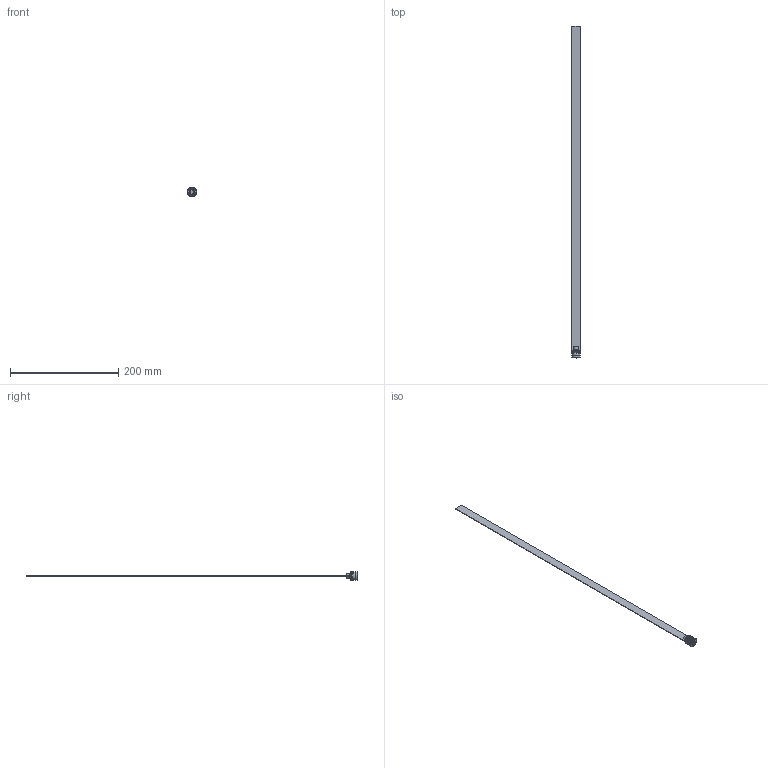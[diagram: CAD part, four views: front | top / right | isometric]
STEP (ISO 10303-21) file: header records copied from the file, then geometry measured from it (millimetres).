
FILE_DESCRIPTION (( 'STEP AP203' ), '1' );
FILE_NAME ('RL-16Fx600.STEP', '2015-12-02T14:32:27', ( 'Balzi' ), ( '' ), 'SwSTEP 2.0', 'SolidWorks 2015', '' );
FILE_SCHEMA (( 'CONFIG_CONTROL_DESIGN' ));
Length unit declared in the file: millimetre
Products named in the file (1): RL-16Fx600
Bounding box: 17.5 x 614 x 17.5 mm (x, y, z)
Volume: 12408.3 mm3; surface area: 21937.6 mm2
Topology: 1 solids, 1 shells, 75 faces, 177 edges, 109 vertices
Faces by surface type: plane 31, cone 19, cylinder 17, torus 8
Entity records: 2245 total; most frequent: CARTESIAN_POINT 412, DIRECTION 386, ORIENTED_EDGE 354, EDGE_CURVE 177, AXIS2_PLACEMENT_3D 147, VERTEX_POINT 109, VECTOR 92, LINE 92
